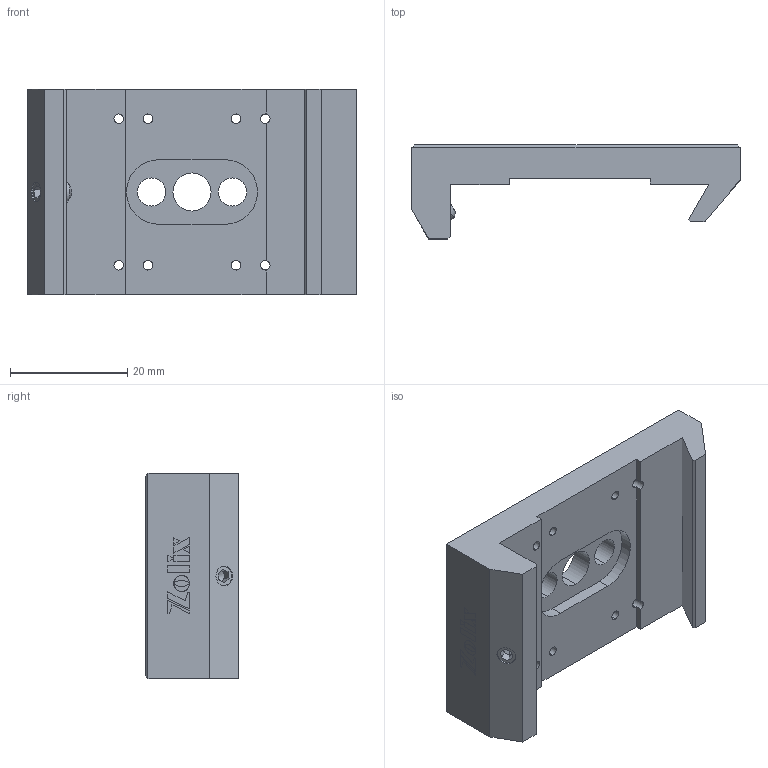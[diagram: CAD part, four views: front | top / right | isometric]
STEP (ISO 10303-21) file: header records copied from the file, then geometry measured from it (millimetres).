
FILE_DESCRIPTION (( 'STEP AP203' ), '1' );
FILE_NAME ('RACA-M2.step', '2019-05-09T09:10:41', ( '' ), ( '' ), 'SwSTEP 2.0', 'SolidWorks 2016', '' );
FILE_SCHEMA (( 'CONFIG_CONTROL_DESIGN' ));
Length unit declared in the file: millimetre
Products named in the file (1): RACA-M2
Bounding box: 56 x 16 x 35 mm (x, y, z)
Surface area: 6804 mm2 (no closed solid volume)
Topology: 0 solids, 3 shells, 110 faces, 525 edges, 409 vertices
Faces by surface type: plane 76, cylinder 28, cone 6
Entity records: 5319 total; most frequent: CARTESIAN_POINT 1049, DIRECTION 813, ORIENTED_EDGE 781, EDGE_CURVE 523, LINE 451, VECTOR 451, VERTEX_POINT 409, AXIS2_PLACEMENT_3D 181
